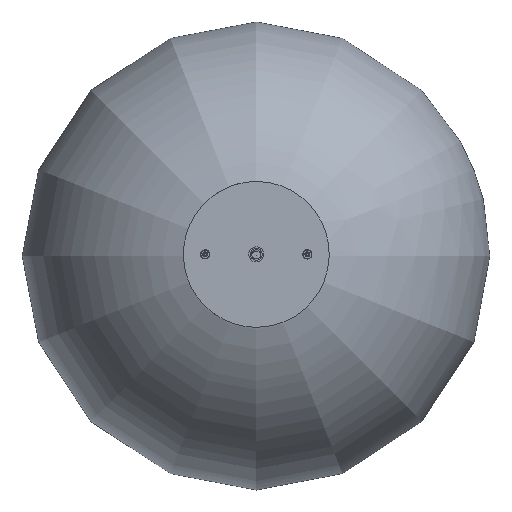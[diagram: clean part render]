
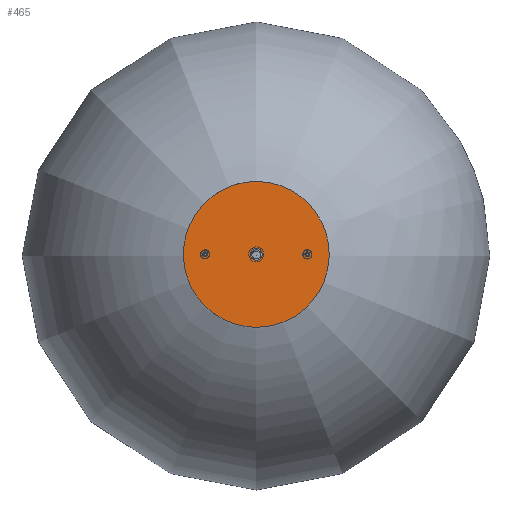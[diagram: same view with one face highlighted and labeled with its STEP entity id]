
A CAD part, top view. The second image highlights one B-rep face of the part: STEP entity #465.
In plain terms, the highlighted planar face has unit normal (0, 0, 1).
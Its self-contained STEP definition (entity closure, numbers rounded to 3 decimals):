
#83=FACE_BOUND('',#1282,.T.);
#84=FACE_BOUND('',#1283,.T.);
#85=FACE_BOUND('',#1284,.T.);
#465=ADVANCED_FACE('',(#853,#83,#84,#85),#5912,.T.);
#853=FACE_OUTER_BOUND('',#1281,.T.);
#1281=EDGE_LOOP('',(#3150));
#1282=EDGE_LOOP('',(#3151));
#1283=EDGE_LOOP('',(#3152));
#1284=EDGE_LOOP('',(#3153));
#3150=ORIENTED_EDGE('',*,*,#4121,.T.);
#3151=ORIENTED_EDGE('',*,*,#4122,.F.);
#3152=ORIENTED_EDGE('',*,*,#4130,.T.);
#3153=ORIENTED_EDGE('',*,*,#4139,.F.);
#4121=EDGE_CURVE('',#5693,#5693,#4422,.T.);
#4122=EDGE_CURVE('',#5695,#5695,#4423,.T.);
#4130=EDGE_CURVE('',#5696,#5696,#4428,.T.);
#4139=EDGE_CURVE('',#5697,#5697,#4435,.T.);
#4422=(
BOUNDED_CURVE()
B_SPLINE_CURVE(2,(#62751,#62752,#62753,#62754,#62755,#62756,#62757,#62758,
#62759),.UNSPECIFIED.,.T.,.F.)
B_SPLINE_CURVE_WITH_KNOTS((3,2,2,2,3),(-398.982,-299.237,
-199.491,-99.746,0.),.UNSPECIFIED.)
CURVE()
GEOMETRIC_REPRESENTATION_ITEM()
RATIONAL_B_SPLINE_CURVE((1.,0.707,1.,0.707,1.,0.707,
1.,0.707,1.))
REPRESENTATION_ITEM('')
);
#4423=(
BOUNDED_CURVE()
B_SPLINE_CURVE(2,(#62760,#62761,#62762,#62763,#62764,#62765,#62766,#62767,
#62768),.UNSPECIFIED.,.T.,.F.)
B_SPLINE_CURVE_WITH_KNOTS((3,2,2,2,3),(0.,8.011,16.022,
24.033,32.044),.UNSPECIFIED.)
CURVE()
GEOMETRIC_REPRESENTATION_ITEM()
RATIONAL_B_SPLINE_CURVE((1.,0.707,1.,0.707,1.,0.707,
1.,0.707,1.))
REPRESENTATION_ITEM('')
);
#4428=(
BOUNDED_CURVE()
B_SPLINE_CURVE(2,(#62817,#62818,#62819,#62820,#62821,#62822,#62823,#62824,
#62825,#62826,#62827,#62828,#62829),.UNSPECIFIED.,.T.,.F.)
B_SPLINE_CURVE_WITH_KNOTS((3,2,2,2,2,2,3),(14.88,22.32,
29.76,33.479,37.199,40.919,44.639),
 .UNSPECIFIED.)
CURVE()
GEOMETRIC_REPRESENTATION_ITEM()
RATIONAL_B_SPLINE_CURVE((1.,0.707,1.,0.707,1.,0.924,
1.,0.924,1.,0.924,1.,0.924,1.))
REPRESENTATION_ITEM('')
);
#4435=(
BOUNDED_CURVE()
B_SPLINE_CURVE(2,(#62984,#62985,#62986,#62987,#62988,#62989,#62990,#62991,
#62992,#62993,#62994,#62995,#62996),.UNSPECIFIED.,.T.,.F.)
B_SPLINE_CURVE_WITH_KNOTS((3,2,2,2,2,2,3),(14.88,22.32,
29.76,33.479,37.199,40.919,44.639),
 .UNSPECIFIED.)
CURVE()
GEOMETRIC_REPRESENTATION_ITEM()
RATIONAL_B_SPLINE_CURVE((1.,0.707,1.,0.707,1.,0.924,
1.,0.924,1.,0.924,1.,0.924,1.))
REPRESENTATION_ITEM('')
);
#5693=VERTEX_POINT('',#62727);
#5695=VERTEX_POINT('',#62729);
#5696=VERTEX_POINT('',#62730);
#5697=VERTEX_POINT('',#62731);
#5912=PLANE('',#6487);
#6487=AXIS2_PLACEMENT_3D('',#62611,#6802,$);
#6802=DIRECTION('',(0.,0.,1.));
#62611=CARTESIAN_POINT('',(-79.375,-79.375,-4.969));
#62727=CARTESIAN_POINT('',(63.5,0.,-4.969));
#62729=CARTESIAN_POINT('',(5.1,0.,-4.969));
#62730=CARTESIAN_POINT('',(-42.4,0.,-4.969));
#62731=CARTESIAN_POINT('',(42.4,0.,-4.969));
#62751=CARTESIAN_POINT('',(63.5,0.,-4.969));
#62752=CARTESIAN_POINT('',(63.5,63.5,-4.969));
#62753=CARTESIAN_POINT('',(0.,63.5,-4.969));
#62754=CARTESIAN_POINT('',(-63.5,63.5,-4.969));
#62755=CARTESIAN_POINT('',(-63.5,0.,-4.969));
#62756=CARTESIAN_POINT('',(-63.5,-63.5,-4.969));
#62757=CARTESIAN_POINT('',(0.,-63.5,-4.969));
#62758=CARTESIAN_POINT('',(63.5,-63.5,-4.969));
#62759=CARTESIAN_POINT('',(63.5,0.,-4.969));
#62760=CARTESIAN_POINT('',(5.1,0.,-4.969));
#62761=CARTESIAN_POINT('',(5.1,5.1,-4.969));
#62762=CARTESIAN_POINT('',(0.,5.1,-4.969));
#62763=CARTESIAN_POINT('',(-5.1,5.1,-4.969));
#62764=CARTESIAN_POINT('',(-5.1,0.,-4.969));
#62765=CARTESIAN_POINT('',(-5.1,-5.1,-4.969));
#62766=CARTESIAN_POINT('',(0.,-5.1,-4.969));
#62767=CARTESIAN_POINT('',(5.1,-5.1,-4.969));
#62768=CARTESIAN_POINT('',(5.1,0.,-4.969));
#62817=CARTESIAN_POINT('',(-42.4,0.,-4.969));
#62818=CARTESIAN_POINT('',(-42.4,-2.1,-4.969));
#62819=CARTESIAN_POINT('',(-44.5,-2.1,-4.969));
#62820=CARTESIAN_POINT('',(-46.6,-2.1,-4.969));
#62821=CARTESIAN_POINT('',(-46.6,0.,-4.969));
#62822=CARTESIAN_POINT('',(-46.6,0.87,-4.969));
#62823=CARTESIAN_POINT('',(-45.985,1.485,-4.969));
#62824=CARTESIAN_POINT('',(-45.37,2.1,-4.969));
#62825=CARTESIAN_POINT('',(-44.5,2.1,-4.969));
#62826=CARTESIAN_POINT('',(-43.63,2.1,-4.969));
#62827=CARTESIAN_POINT('',(-43.015,1.485,-4.969));
#62828=CARTESIAN_POINT('',(-42.4,0.87,-4.969));
#62829=CARTESIAN_POINT('',(-42.4,0.,-4.969));
#62984=CARTESIAN_POINT('',(42.4,0.,-4.969));
#62985=CARTESIAN_POINT('',(42.4,-2.1,-4.969));
#62986=CARTESIAN_POINT('',(44.5,-2.1,-4.969));
#62987=CARTESIAN_POINT('',(46.6,-2.1,-4.969));
#62988=CARTESIAN_POINT('',(46.6,0.,-4.969));
#62989=CARTESIAN_POINT('',(46.6,0.87,-4.969));
#62990=CARTESIAN_POINT('',(45.985,1.485,-4.969));
#62991=CARTESIAN_POINT('',(45.37,2.1,-4.969));
#62992=CARTESIAN_POINT('',(44.5,2.1,-4.969));
#62993=CARTESIAN_POINT('',(43.63,2.1,-4.969));
#62994=CARTESIAN_POINT('',(43.015,1.485,-4.969));
#62995=CARTESIAN_POINT('',(42.4,0.87,-4.969));
#62996=CARTESIAN_POINT('',(42.4,0.,-4.969));
